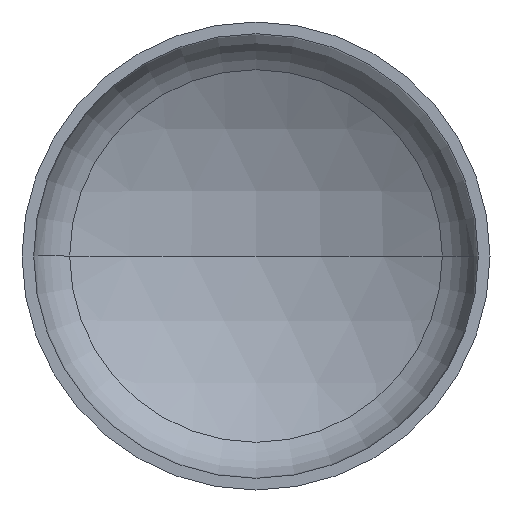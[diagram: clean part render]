
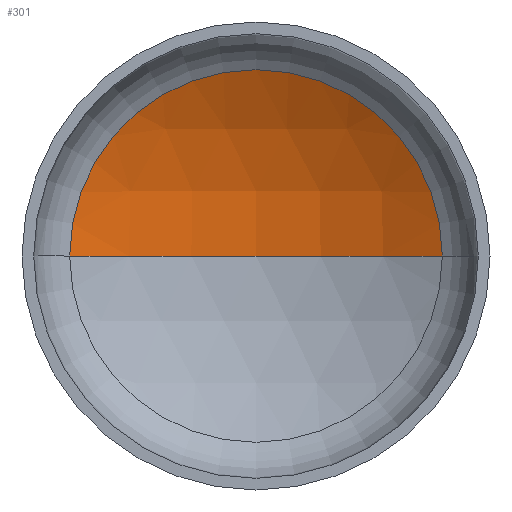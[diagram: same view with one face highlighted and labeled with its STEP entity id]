
A CAD part, front view. The second image highlights one B-rep face of the part: STEP entity #301.
In plain terms, the highlighted spherical face has radius 2560 mm.
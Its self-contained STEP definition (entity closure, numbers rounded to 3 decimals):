
#10 = EDGE_LOOP ( 'NONE', ( #34, #15, #128 ) ) ;
#15 = ORIENTED_EDGE ( 'NONE', *, *, #231, .T. ) ;
#26 = CIRCLE ( 'NONE', #45, 2560. ) ;
#29 = AXIS2_PLACEMENT_3D ( 'NONE', #172, #155, #175 ) ;
#34 = ORIENTED_EDGE ( 'NONE', *, *, #250, .F. ) ;
#45 = AXIS2_PLACEMENT_3D ( 'NONE', #56, #47, #99 ) ;
#46 = VERTEX_POINT ( 'NONE', #255 ) ;
#47 = DIRECTION ( 'NONE',  ( 0., 0., -1. ) ) ;
#48 = AXIS2_PLACEMENT_3D ( 'NONE', #407, #405, #181 ) ;
#51 = AXIS2_PLACEMENT_3D ( 'NONE', #290, #288, #252 ) ;
#56 = CARTESIAN_POINT ( 'NONE',  ( 0., -1675.55, 0. ) ) ;
#67 = CIRCLE ( 'NONE', #51, 1273.816 ) ;
#99 = DIRECTION ( 'NONE',  ( -1., 0., 0. ) ) ;
#103 = VERTEX_POINT ( 'NONE', #337 ) ;
#128 = ORIENTED_EDGE ( 'NONE', *, *, #214, .T. ) ;
#155 = DIRECTION ( 'NONE',  ( 0., 0., -1. ) ) ;
#172 = CARTESIAN_POINT ( 'NONE',  ( 0., -1675.55, 0. ) ) ;
#175 = DIRECTION ( 'NONE',  ( -1., 0., 0. ) ) ;
#181 = DIRECTION ( 'NONE',  ( 1., 0., 0. ) ) ;
#214 = EDGE_CURVE ( 'NONE', #403, #46, #67, .T. ) ;
#231 = EDGE_CURVE ( 'NONE', #103, #403, #26, .T. ) ;
#250 = EDGE_CURVE ( 'NONE', #103, #46, #297, .T. ) ;
#252 = DIRECTION ( 'NONE',  ( 1., 0., 0. ) ) ;
#255 = CARTESIAN_POINT ( 'NONE',  ( -1273.816, 545.034, 0. ) ) ;
#288 = DIRECTION ( 'NONE',  ( 0., -1., 0. ) ) ;
#290 = CARTESIAN_POINT ( 'NONE',  ( 0., 545.034, 0. ) ) ;
#297 = CIRCLE ( 'NONE', #48, 2560. ) ;
#301 = ADVANCED_FACE ( 'NONE', ( #352 ), #409, .F. ) ;
#337 = CARTESIAN_POINT ( 'NONE',  ( 0., 884.45, 0. ) ) ;
#352 = FACE_OUTER_BOUND ( 'NONE', #10, .T. ) ;
#370 = CARTESIAN_POINT ( 'NONE',  ( 1273.816, 545.034, 0. ) ) ;
#403 = VERTEX_POINT ( 'NONE', #370 ) ;
#405 = DIRECTION ( 'NONE',  ( 0., 0., 1. ) ) ;
#407 = CARTESIAN_POINT ( 'NONE',  ( 0., -1675.55, 0. ) ) ;
#409 = SPHERICAL_SURFACE ( 'NONE', #29, 2560. ) ;
